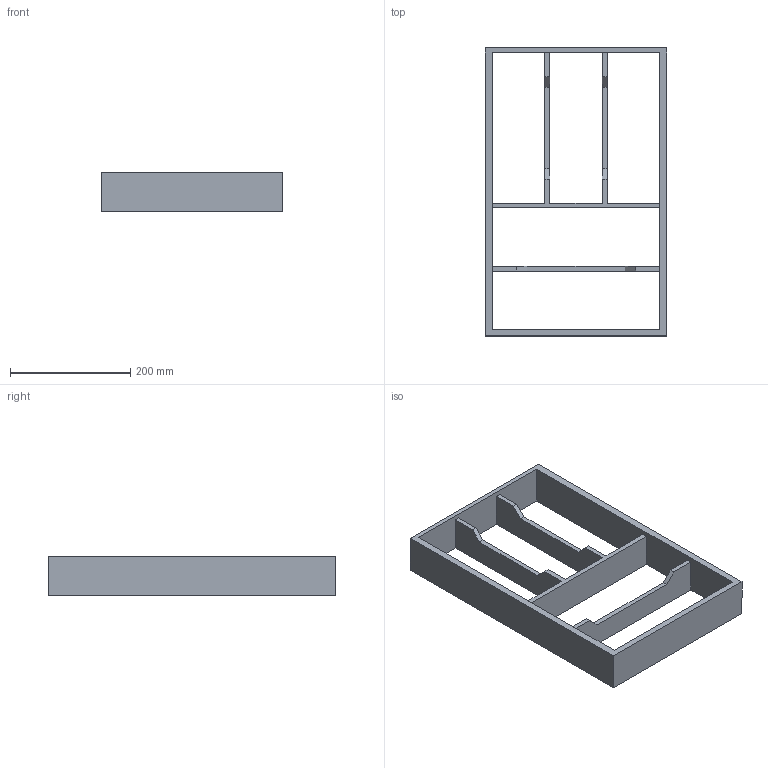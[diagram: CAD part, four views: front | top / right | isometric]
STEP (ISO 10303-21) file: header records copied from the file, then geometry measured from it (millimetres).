
FILE_DESCRIPTION (( 'STEP AP214' ), '1' );
FILE_NAME ('Vario Besteck fix NL500_B400_19mm_Buche.step', '2010-11-08T07:33:16', ( 'grass' ), ( '' ), 'SwSTEP 2.0', 'SolidWorks 2010', '' );
FILE_SCHEMA (( 'AUTOMOTIVE_DESIGN' ));
Length unit declared in the file: millimetre
Products named in the file (1): Vario Besteck fix NL500_B400_19mm_Buche
Bounding box: 302 x 479 x 65 mm (x, y, z)
Volume: 1505874 mm3; surface area: 348438 mm2
Topology: 1 solids, 1 shells, 34 faces, 108 edges, 72 vertices
Faces by surface type: plane 34
Entity records: 1226 total; most frequent: ORIENTED_EDGE 216, CARTESIAN_POINT 215, DIRECTION 178, EDGE_CURVE 108, LINE 108, VECTOR 108, VERTEX_POINT 72, EDGE_LOOP 40
